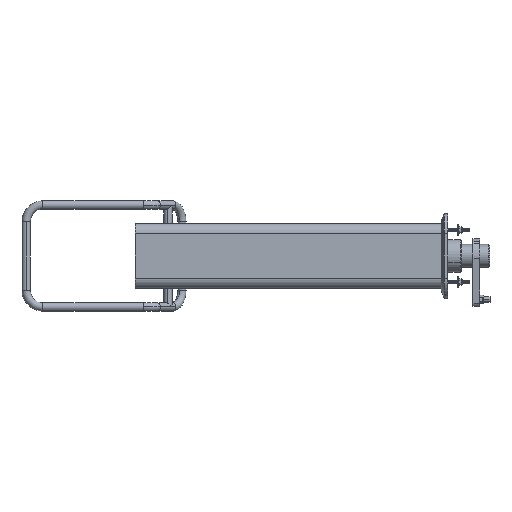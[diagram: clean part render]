
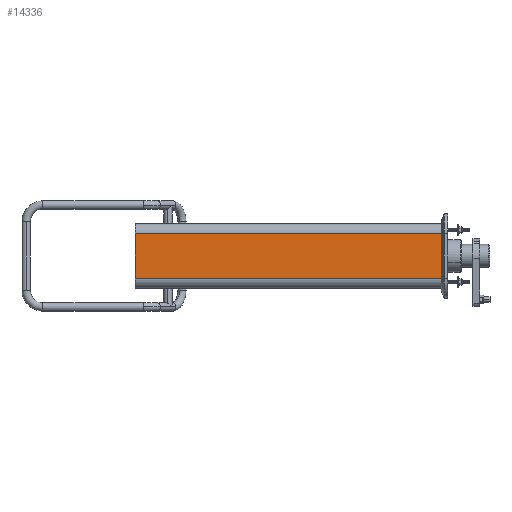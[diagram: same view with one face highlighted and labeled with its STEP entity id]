
A CAD part, left-side view. The second image highlights one B-rep face of the part: STEP entity #14336.
In plain terms, the highlighted planar face has unit normal (-1, 0, 0).
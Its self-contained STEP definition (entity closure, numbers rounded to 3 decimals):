
#40 = EDGE_CURVE ( 'NONE', #57535, #25389, #27602, .T. ) ;
#1120 = DIRECTION ( 'NONE',  ( 0., -1., 0. ) ) ;
#2042 = VECTOR ( 'NONE', #18272, 1000. ) ;
#6163 = LINE ( 'NONE', #13360, #33825 ) ;
#8039 = DIRECTION ( 'NONE',  ( 0., 0., 1. ) ) ;
#11591 = ORIENTED_EDGE ( 'NONE', *, *, #55171, .F. ) ;
#13307 = CARTESIAN_POINT ( 'NONE',  ( -102., 935., 0. ) ) ;
#13360 = CARTESIAN_POINT ( 'NONE',  ( -102., 15., 0. ) ) ;
#14336 = ADVANCED_FACE ( 'NONE', ( #22215 ), #55103, .F. ) ;
#15639 = VERTEX_POINT ( 'NONE', #40659 ) ;
#18272 = DIRECTION ( 'NONE',  ( 0., -1., 0. ) ) ;
#22215 = FACE_OUTER_BOUND ( 'NONE', #53544, .T. ) ;
#22237 = CARTESIAN_POINT ( 'NONE',  ( -102., 935., 0. ) ) ;
#22913 = EDGE_CURVE ( 'NONE', #25389, #71738, #6163, .T. ) ;
#25389 = VERTEX_POINT ( 'NONE', #27298 ) ;
#27298 = CARTESIAN_POINT ( 'NONE',  ( -102., 15., -67. ) ) ;
#27602 = LINE ( 'NONE', #32091, #69976 ) ;
#27798 = DIRECTION ( 'NONE',  ( 0., 0., -1. ) ) ;
#29937 = DIRECTION ( 'NONE',  ( 0., 0., 1. ) ) ;
#31452 = LINE ( 'NONE', #51369, #2042 ) ;
#32091 = CARTESIAN_POINT ( 'NONE',  ( -102., 935., -67. ) ) ;
#33825 = VECTOR ( 'NONE', #8039, 1000. ) ;
#36839 = ORIENTED_EDGE ( 'NONE', *, *, #22913, .T. ) ;
#40659 = CARTESIAN_POINT ( 'NONE',  ( -102., 935., 67. ) ) ;
#42654 = ORIENTED_EDGE ( 'NONE', *, *, #60068, .F. ) ;
#42726 = ORIENTED_EDGE ( 'NONE', *, *, #40, .T. ) ;
#48198 = LINE ( 'NONE', #13307, #61140 ) ;
#48595 = CARTESIAN_POINT ( 'NONE',  ( -102., 935., -67. ) ) ;
#50991 = AXIS2_PLACEMENT_3D ( 'NONE', #22237, #60911, #27798 ) ;
#51369 = CARTESIAN_POINT ( 'NONE',  ( -102., 935., 67. ) ) ;
#53544 = EDGE_LOOP ( 'NONE', ( #36839, #42654, #11591, #42726 ) ) ;
#55103 = PLANE ( 'NONE',  #50991 ) ;
#55171 = EDGE_CURVE ( 'NONE', #57535, #15639, #48198, .T. ) ;
#56046 = CARTESIAN_POINT ( 'NONE',  ( -102., 15., 67. ) ) ;
#57535 = VERTEX_POINT ( 'NONE', #48595 ) ;
#60068 = EDGE_CURVE ( 'NONE', #15639, #71738, #31452, .T. ) ;
#60911 = DIRECTION ( 'NONE',  ( 1., 0., 0. ) ) ;
#61140 = VECTOR ( 'NONE', #29937, 1000. ) ;
#69976 = VECTOR ( 'NONE', #1120, 1000. ) ;
#71738 = VERTEX_POINT ( 'NONE', #56046 ) ;
